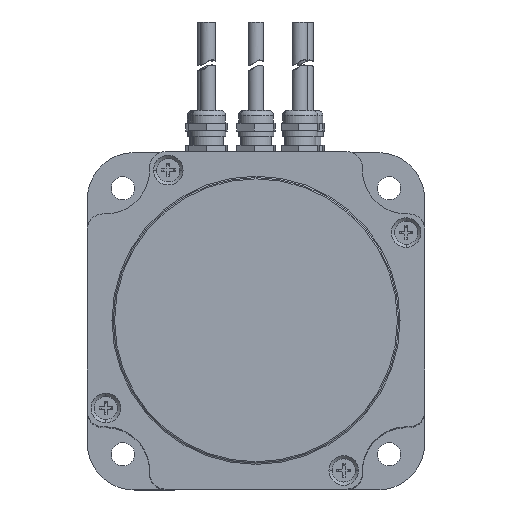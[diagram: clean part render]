
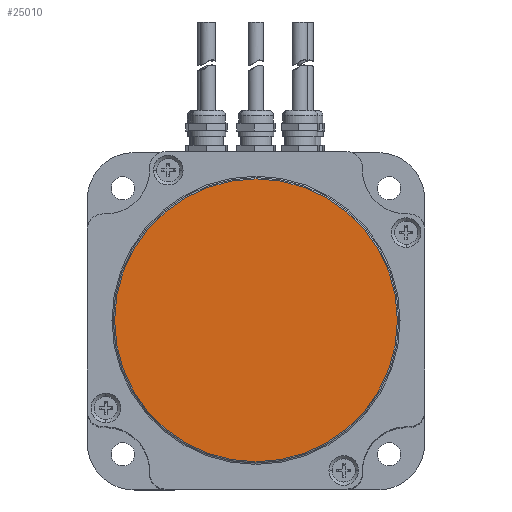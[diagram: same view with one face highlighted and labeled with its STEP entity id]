
A CAD part, top view. The second image highlights one B-rep face of the part: STEP entity #25010.
In plain terms, the highlighted planar face has unit normal (0, 0, 1).
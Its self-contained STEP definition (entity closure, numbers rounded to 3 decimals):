
#183 = CARTESIAN_POINT ( 'NONE',  ( -66.883, 27.006, 216.149 ) ) ;
#1703 = AXIS2_PLACEMENT_3D ( 'NONE', #19054, #8579, #45712 ) ;
#3937 = CARTESIAN_POINT ( 'NONE',  ( -175.883, 27.006, 216.149 ) ) ;
#8579 = DIRECTION ( 'NONE',  ( 0., 0., -1. ) ) ;
#9509 = AXIS2_PLACEMENT_3D ( 'NONE', #48444, #49423, #17452 ) ;
#12774 = AXIS2_PLACEMENT_3D ( 'NONE', #35789, #13971, #67001 ) ;
#13971 = DIRECTION ( 'NONE',  ( 0., 0., 1. ) ) ;
#17452 = DIRECTION ( 'NONE',  ( -1., 0., 0. ) ) ;
#19054 = CARTESIAN_POINT ( 'NONE',  ( -56.383, -37.994, 216.149 ) ) ;
#25010 = ADVANCED_FACE ( 'NONE', ( #50638 ), #25056, .F. ) ;
#25056 = PLANE ( 'NONE',  #1703 ) ;
#29095 = ORIENTED_EDGE ( 'NONE', *, *, #53308, .T. ) ;
#30960 = CIRCLE ( 'NONE', #9509, 54.5 ) ;
#35501 = EDGE_LOOP ( 'NONE', ( #29095, #47445 ) ) ;
#35789 = CARTESIAN_POINT ( 'NONE',  ( -121.383, 27.006, 216.149 ) ) ;
#38010 = VERTEX_POINT ( 'NONE', #3937 ) ;
#38056 = VERTEX_POINT ( 'NONE', #183 ) ;
#38979 = EDGE_CURVE ( 'NONE', #38056, #38010, #30960, .T. ) ;
#45712 = DIRECTION ( 'NONE',  ( -1., 0., 0. ) ) ;
#47445 = ORIENTED_EDGE ( 'NONE', *, *, #38979, .T. ) ;
#48444 = CARTESIAN_POINT ( 'NONE',  ( -121.383, 27.006, 216.149 ) ) ;
#49423 = DIRECTION ( 'NONE',  ( 0., 0., 1. ) ) ;
#50638 = FACE_OUTER_BOUND ( 'NONE', #35501, .T. ) ;
#53308 = EDGE_CURVE ( 'NONE', #38010, #38056, #53906, .T. ) ;
#53906 = CIRCLE ( 'NONE', #12774, 54.5 ) ;
#67001 = DIRECTION ( 'NONE',  ( -1., 0., 0. ) ) ;
